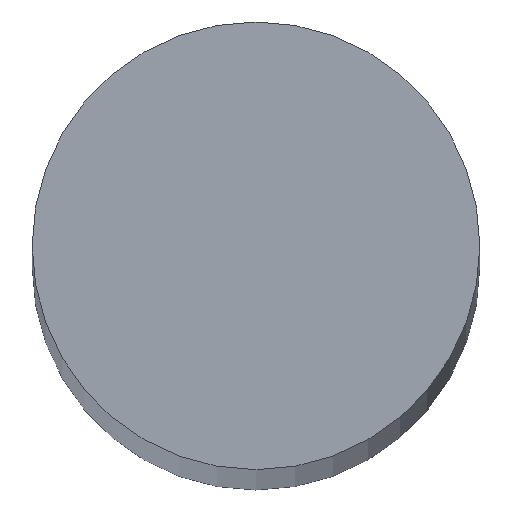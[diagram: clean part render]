
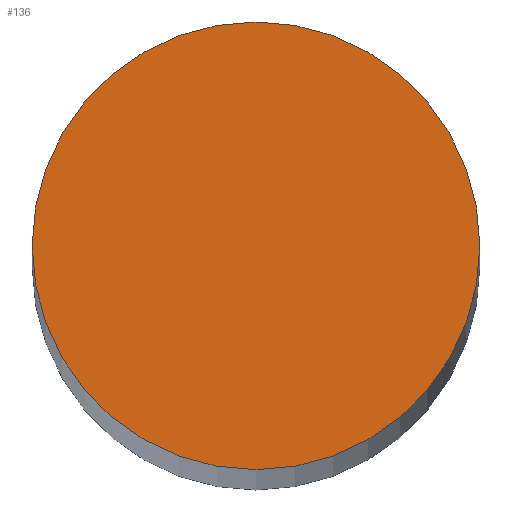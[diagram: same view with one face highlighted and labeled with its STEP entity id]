
A CAD part, top view. The second image highlights one B-rep face of the part: STEP entity #136.
In plain terms, the highlighted planar face has unit normal (0, 0, 1).
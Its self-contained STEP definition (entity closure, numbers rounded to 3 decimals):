
#4 = EDGE_LOOP ( 'NONE', ( #10, #8 ) ) ;
#8 = ORIENTED_EDGE ( 'NONE', *, *, #58, .T. ) ;
#10 = ORIENTED_EDGE ( 'NONE', *, *, #72, .T. ) ;
#30 = CIRCLE ( 'NONE', #68, 6. ) ;
#33 = FACE_OUTER_BOUND ( 'NONE', #4, .T. ) ;
#34 = CIRCLE ( 'NONE', #73, 6. ) ;
#49 = VERTEX_POINT ( 'NONE', #51 ) ;
#51 = CARTESIAN_POINT ( 'NONE',  ( 6., 0., 156. ) ) ;
#52 = VERTEX_POINT ( 'NONE', #77 ) ;
#58 = EDGE_CURVE ( 'NONE', #49, #52, #30, .T. ) ;
#59 = AXIS2_PLACEMENT_3D ( 'NONE', #106, #109, #110 ) ;
#68 = AXIS2_PLACEMENT_3D ( 'NONE', #92, #93, #94 ) ;
#72 = EDGE_CURVE ( 'NONE', #52, #49, #34, .T. ) ;
#73 = AXIS2_PLACEMENT_3D ( 'NONE', #90, #103, #104 ) ;
#77 = CARTESIAN_POINT ( 'NONE',  ( -6., 0., 156. ) ) ;
#90 = CARTESIAN_POINT ( 'NONE',  ( 0., 0., 156. ) ) ;
#92 = CARTESIAN_POINT ( 'NONE',  ( 0., 0., 156. ) ) ;
#93 = DIRECTION ( 'NONE',  ( 0., 0., 1. ) ) ;
#94 = DIRECTION ( 'NONE',  ( 1., 0., 0. ) ) ;
#96 = PLANE ( 'NONE',  #59 ) ;
#103 = DIRECTION ( 'NONE',  ( 0., 0., 1. ) ) ;
#104 = DIRECTION ( 'NONE',  ( 1., 0., 0. ) ) ;
#106 = CARTESIAN_POINT ( 'NONE',  ( 0., 0., 156. ) ) ;
#109 = DIRECTION ( 'NONE',  ( 0., 0., 1. ) ) ;
#110 = DIRECTION ( 'NONE',  ( 1., 0., 0. ) ) ;
#136 = ADVANCED_FACE ( 'NONE', ( #33 ), #96, .T. ) ;
